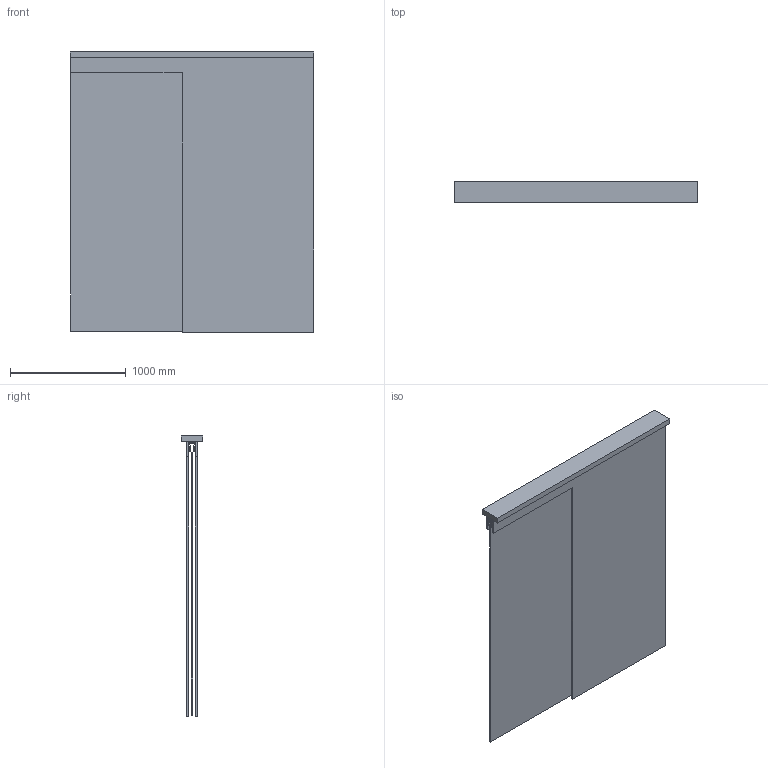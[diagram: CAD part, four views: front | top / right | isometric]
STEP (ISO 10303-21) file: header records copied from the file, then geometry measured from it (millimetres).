
FILE_DESCRIPTION(('STEP AP242'),'1');
FILE_NAME('OPO_65.084.16_volu_3d.stp','2026-02-23T17:30:00',(' '),(' '),'Spatial InterOp 3D',' ',' ');
FILE_SCHEMA(('AP242_MANAGED_MODEL_BASED_3D_ENGINEERING_MIM_LF {1 0 10303 442 1 1 4}'));
Length unit declared in the file: millimetre
Products named in the file (1): 1
Bounding box: 2100 x 188 x 2418 mm (x, y, z)
Volume: 151221235.7 mm3; surface area: 18540538.8 mm2
Topology: 9 solids, 9 shells, 326 faces, 876 edges, 580 vertices
Faces by surface type: plane 258, cylinder 68
Entity records: 12801 total; most frequent: CARTESIAN_POINT 1791, ORIENTED_EDGE 1752, DIRECTION 1682, EDGE_CURVE 876, LINE 740, VECTOR 740, VERTEX_POINT 580, AXIS2_PLACEMENT_3D 471
